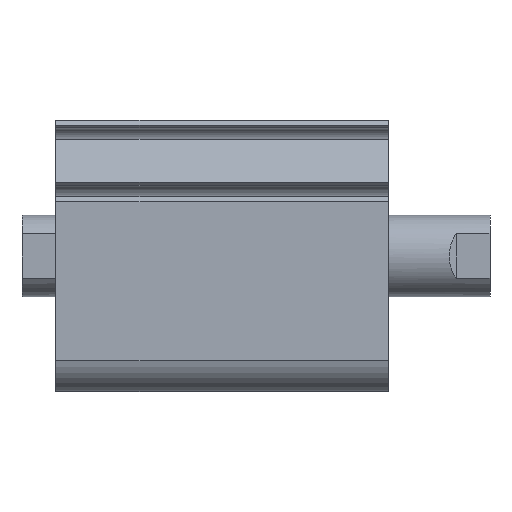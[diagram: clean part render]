
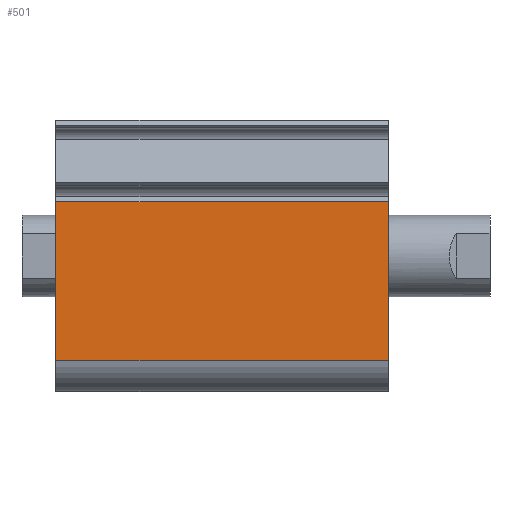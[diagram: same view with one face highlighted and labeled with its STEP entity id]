
A CAD part, top view. The second image highlights one B-rep face of the part: STEP entity #501.
In plain terms, the highlighted planar face has unit normal (0, 0, 1).
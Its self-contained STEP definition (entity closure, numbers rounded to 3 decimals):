
#29 = CARTESIAN_POINT ( 'NONE',  ( 49., 8.001, 20. ) ) ;
#464 = VECTOR ( 'NONE', #1525, 1000. ) ;
#501 = ADVANCED_FACE ( 'NONE', ( #2805 ), #1493, .F. ) ;
#546 = CARTESIAN_POINT ( 'NONE',  ( 49., 8.001, 20. ) ) ;
#584 = DIRECTION ( 'NONE',  ( 0., -1., 0. ) ) ;
#702 = CARTESIAN_POINT ( 'NONE',  ( 49., 8.001, 20. ) ) ;
#719 = CARTESIAN_POINT ( 'NONE',  ( 0., -15.44, 20. ) ) ;
#730 = LINE ( 'NONE', #2833, #464 ) ;
#797 = EDGE_CURVE ( 'NONE', #1922, #1631, #730, .T. ) ;
#805 = DIRECTION ( 'NONE',  ( -1., 0., 0. ) ) ;
#870 = EDGE_CURVE ( 'NONE', #3026, #1631, #2143, .T. ) ;
#1022 = VECTOR ( 'NONE', #1830, 1000. ) ;
#1244 = VECTOR ( 'NONE', #805, 1000. ) ;
#1258 = ORIENTED_EDGE ( 'NONE', *, *, #797, .T. ) ;
#1430 = ORIENTED_EDGE ( 'NONE', *, *, #2068, .T. ) ;
#1493 = PLANE ( 'NONE',  #2785 ) ;
#1525 = DIRECTION ( 'NONE',  ( 0., -1., 0. ) ) ;
#1631 = VERTEX_POINT ( 'NONE', #719 ) ;
#1681 = EDGE_LOOP ( 'NONE', ( #1258, #2182, #2634, #1430 ) ) ;
#1684 = DIRECTION ( 'NONE',  ( 0., -1., 0. ) ) ;
#1755 = DIRECTION ( 'NONE',  ( 0., 0., -1. ) ) ;
#1830 = DIRECTION ( 'NONE',  ( -1., 0., 0. ) ) ;
#1866 = LINE ( 'NONE', #29, #3092 ) ;
#1922 = VERTEX_POINT ( 'NONE', #2565 ) ;
#2027 = VERTEX_POINT ( 'NONE', #3376 ) ;
#2068 = EDGE_CURVE ( 'NONE', #2027, #1922, #3175, .T. ) ;
#2143 = LINE ( 'NONE', #3130, #1022 ) ;
#2182 = ORIENTED_EDGE ( 'NONE', *, *, #870, .F. ) ;
#2183 = EDGE_CURVE ( 'NONE', #2027, #3026, #1866, .T. ) ;
#2427 = CARTESIAN_POINT ( 'NONE',  ( 49., -15.44, 20. ) ) ;
#2565 = CARTESIAN_POINT ( 'NONE',  ( 0., 8.001, 20. ) ) ;
#2634 = ORIENTED_EDGE ( 'NONE', *, *, #2183, .F. ) ;
#2785 = AXIS2_PLACEMENT_3D ( 'NONE', #702, #1755, #584 ) ;
#2805 = FACE_OUTER_BOUND ( 'NONE', #1681, .T. ) ;
#2833 = CARTESIAN_POINT ( 'NONE',  ( 0., 8.001, 20. ) ) ;
#3026 = VERTEX_POINT ( 'NONE', #2427 ) ;
#3092 = VECTOR ( 'NONE', #1684, 1000. ) ;
#3130 = CARTESIAN_POINT ( 'NONE',  ( 49., -15.44, 20. ) ) ;
#3175 = LINE ( 'NONE', #546, #1244 ) ;
#3376 = CARTESIAN_POINT ( 'NONE',  ( 49., 8.001, 20. ) ) ;
